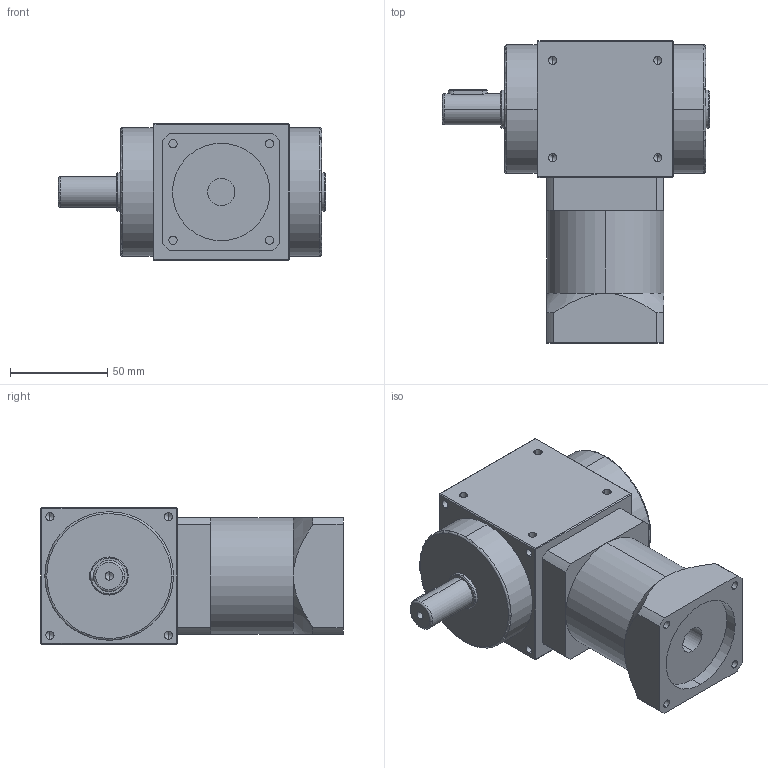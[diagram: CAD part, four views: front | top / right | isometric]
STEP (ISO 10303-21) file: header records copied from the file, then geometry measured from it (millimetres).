
FILE_DESCRIPTION (( 'STEP AP214' ), '1' );
FILE_NAME ('PAW070A-L1-2P(3-10) 14-50-70-M5.STEP', '2020-12-04T07:18:47', ( '微软用户' ), ( '微软中国' ), 'SwSTEP 2.0', 'SolidWorks 2014', '' );
FILE_SCHEMA (( 'AUTOMOTIVE_DESIGN' ));
Length unit declared in the file: millimetre
Products named in the file (2): PAW070A-L1-2P(3-10) 14-50-70-M5
Bounding box: 137 x 155 x 70 mm (x, y, z)
Volume: 711245.9 mm3; surface area: 62138.8 mm2
Topology: 1 solids, 1 shells, 205 faces, 488 edges, 269 vertices
Faces by surface type: cylinder 92, plane 55, cone 52, torus 6
Entity records: 9244 total; most frequent: CARTESIAN_POINT 2444, DIRECTION 984, ORIENTED_EDGE 892, EDGE_CURVE 446, AXIS2_PLACEMENT_3D 381, VERTEX_POINT 269, EDGE_LOOP 239, VECTOR 222
